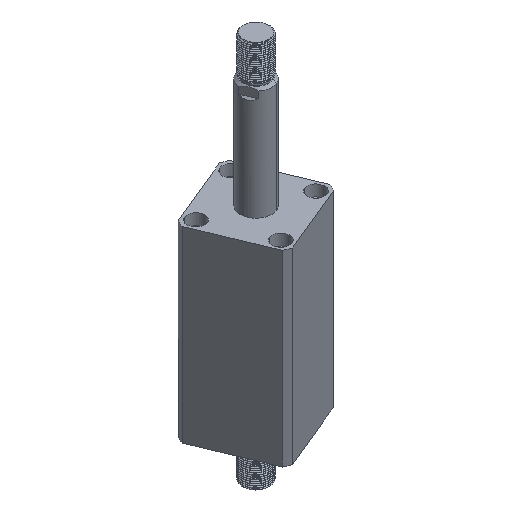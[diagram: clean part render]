
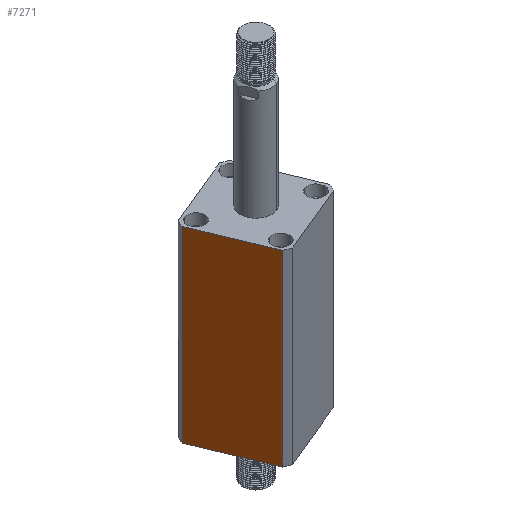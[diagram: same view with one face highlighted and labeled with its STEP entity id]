
A CAD part, isometric view. The second image highlights one B-rep face of the part: STEP entity #7271.
In plain terms, the highlighted planar face has unit normal (-0.924, -0.383, 0) as drawn and (0, -1, 0) by its records, which use the part's own axes.
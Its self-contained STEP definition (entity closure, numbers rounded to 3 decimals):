
#460 = DIRECTION ( 'NONE',  ( 0., 0., 1. ) ) ;
#1508 = DIRECTION ( 'NONE',  ( 0., 0., 1. ) ) ;
#1933 = ORIENTED_EDGE ( 'NONE', *, *, #17410, .F. ) ;
#2293 = CARTESIAN_POINT ( 'NONE',  ( 30.615, -35., 0. ) ) ;
#2344 = DIRECTION ( 'NONE',  ( 1., 0., 0. ) ) ;
#2630 = VECTOR ( 'NONE', #1508, 1000. ) ;
#2783 = ORIENTED_EDGE ( 'NONE', *, *, #7416, .T. ) ;
#3032 = LINE ( 'NONE', #13295, #13387 ) ;
#4211 = CARTESIAN_POINT ( 'NONE',  ( 30.615, -35., -150. ) ) ;
#4364 = CARTESIAN_POINT ( 'NONE',  ( -30.615, -35., -150. ) ) ;
#4500 = CARTESIAN_POINT ( 'NONE',  ( -35., -35., 150. ) ) ;
#4777 = VERTEX_POINT ( 'NONE', #2293 ) ;
#6364 = CARTESIAN_POINT ( 'NONE',  ( 30.615, -35., 150. ) ) ;
#6592 = LINE ( 'NONE', #4211, #13371 ) ;
#7271 = ADVANCED_FACE ( 'NONE', ( #7551 ), #8392, .F. ) ;
#7344 = VERTEX_POINT ( 'NONE', #14040 ) ;
#7416 = EDGE_CURVE ( 'NONE', #7344, #4777, #17509, .T. ) ;
#7551 = FACE_OUTER_BOUND ( 'NONE', #12695, .T. ) ;
#8392 = PLANE ( 'NONE',  #14296 ) ;
#8572 = DIRECTION ( 'NONE',  ( 0., 1., 0. ) ) ;
#8595 = VECTOR ( 'NONE', #2344, 1000. ) ;
#8765 = VERTEX_POINT ( 'NONE', #17115 ) ;
#8807 = LINE ( 'NONE', #4364, #2630 ) ;
#9478 = EDGE_CURVE ( 'NONE', #7344, #8765, #8807, .T. ) ;
#10829 = ORIENTED_EDGE ( 'NONE', *, *, #9478, .F. ) ;
#11816 = CARTESIAN_POINT ( 'NONE',  ( -35., -35., 0. ) ) ;
#12301 = DIRECTION ( 'NONE',  ( 0., 0., -1. ) ) ;
#12695 = EDGE_LOOP ( 'NONE', ( #10829, #2783, #1933, #15099 ) ) ;
#13295 = CARTESIAN_POINT ( 'NONE',  ( -35., -35., 150. ) ) ;
#13371 = VECTOR ( 'NONE', #12301, 1000. ) ;
#13387 = VECTOR ( 'NONE', #14685, 1000. ) ;
#14040 = CARTESIAN_POINT ( 'NONE',  ( -30.615, -35., 0. ) ) ;
#14296 = AXIS2_PLACEMENT_3D ( 'NONE', #4500, #8572, #460 ) ;
#14309 = VERTEX_POINT ( 'NONE', #6364 ) ;
#14685 = DIRECTION ( 'NONE',  ( 1., 0., 0. ) ) ;
#15099 = ORIENTED_EDGE ( 'NONE', *, *, #15840, .F. ) ;
#15840 = EDGE_CURVE ( 'NONE', #8765, #14309, #3032, .T. ) ;
#17115 = CARTESIAN_POINT ( 'NONE',  ( -30.615, -35., 150. ) ) ;
#17410 = EDGE_CURVE ( 'NONE', #14309, #4777, #6592, .T. ) ;
#17509 = LINE ( 'NONE', #11816, #8595 ) ;
